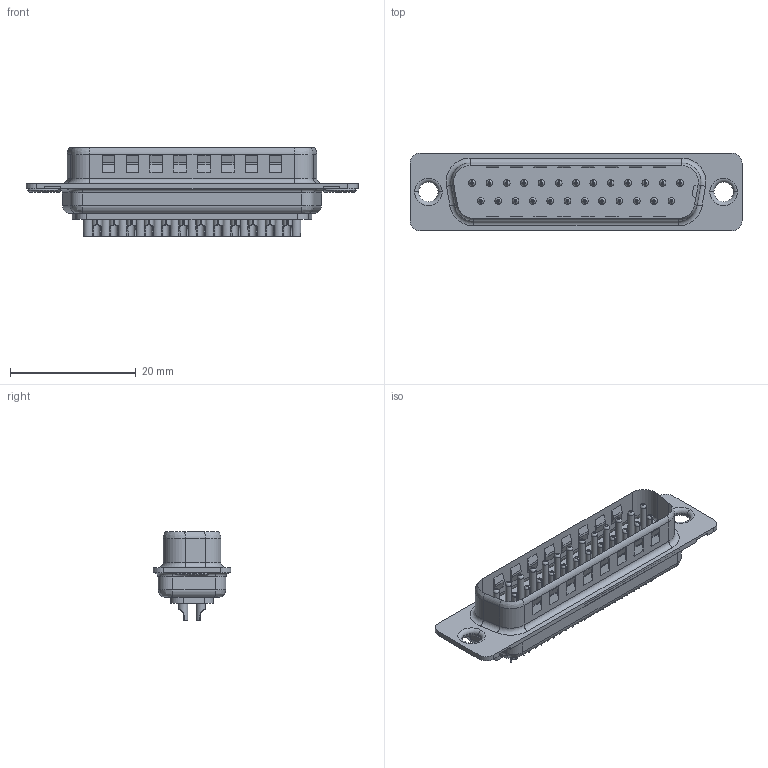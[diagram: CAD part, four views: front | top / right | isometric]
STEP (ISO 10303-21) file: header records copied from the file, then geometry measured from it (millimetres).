
FILE_DESCRIPTION((''),'2;1');
FILE_NAME('DB25P064TXLFC','2007-09-25T',('vrajkris'),('FCI - CDC Division'),'PRO/ENGINEER BY PARAMETRIC TECHNOLOGY CORPORATION, 2004440','PRO/ENGINEER BY PARAMETRIC TECHNOLOGY CORPORATION, 2004440','');
FILE_SCHEMA(('CONFIG_CONTROL_DESIGN'));
Products named in the file (1): DB25P064TXLFC
Bounding box: 52.9 x 12.42 x 14.1 mm (x, y, z)
Volume: 2336.2 mm3; surface area: 6651.8 mm2
Topology: 1 solids, 1 shells, 2119 faces, 4993 edges, 2954 vertices
Faces by surface type: plane 1109, cylinder 485, torus 207, cone 191, bspline 77, sphere 50
Entity records: 73230 total; most frequent: CARTESIAN_POINT 25676, ORIENTED_EDGE 9986, DIRECTION 9649, EDGE_CURVE 4993, AXIS2_PLACEMENT_3D 3461, VERTEX_POINT 2954, VECTOR 2727, LINE 2727
